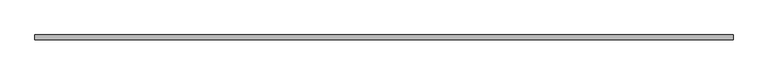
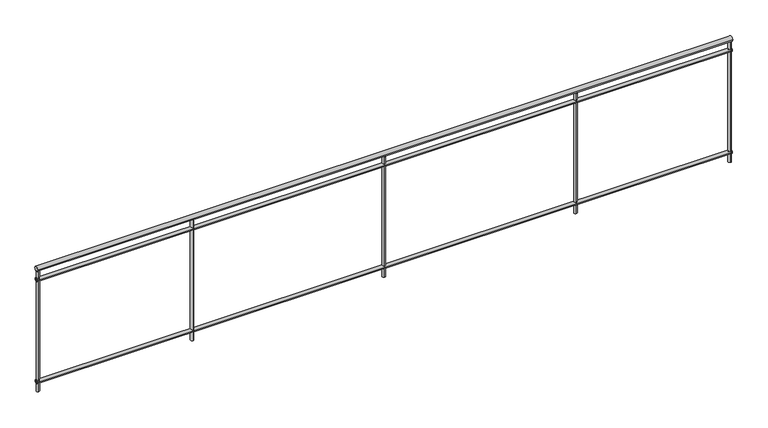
"""IFC4 building model written with IfcOpenShell, lengths in millimetres: railing geometry, バルコニー手摺."""

from ifc_helpers import new_model, si_unit, point, frame, frame_2d, origin, place, context, project, spatial, circle_curve, trimmed, segment, composite_curve, outline, extrude, source, transform, mapped, element, save


def railing_6a31d35b(model_context):
    return source(origin(), model_context, "Body", "SweptSolid", [
        extrude(outline(composite_curve([segment(trimmed(circle_curve(frame_2d((10035.2598658, 4980.0)), 20.0), [point((10055.2598658, 4980.0))], [point((10015.2598658, 4980.0))], False, "CARTESIAN"), True, "CONTINUOUS"), segment(trimmed(circle_curve(frame_2d((10035.2598658, 4980.0)), 20.0), [point((10015.2598658, 4980.0))], [point((10055.2598658, 4980.0))], False, "CARTESIAN"), True, "CONTINUOUS")], self_intersect=False)), frame((-9895.6194095, 0.0, 0.0), z_axis=(1.0, 0.0, 0.0), x_axis=(0.0, 1.0, 0.0)), (0.0, 0.0, 1.0), 5800.0),
        extrude(outline(composite_curve([segment(trimmed(circle_curve(frame_2d((10035.2598658, 4885.0)), 15.0), [point((10050.2598658, 4885.0))], [point((10020.2598658, 4885.0))], False, "CARTESIAN"), True, "CONTINUOUS"), segment(trimmed(circle_curve(frame_2d((10035.2598658, 4885.0)), 15.0), [point((10020.2598658, 4885.0))], [point((10050.2598658, 4885.0))], False, "CARTESIAN"), True, "CONTINUOUS")], self_intersect=False)), frame((-9895.6194095, 0.0, 0.0), z_axis=(1.0, 0.0, 0.0), x_axis=(0.0, 1.0, 0.0)), (0.0, 0.0, 1.0), 5800.0),
        extrude(outline(composite_curve([segment(trimmed(circle_curve(frame_2d((10035.2598658, 3985.0)), 15.0), [point((10050.2598658, 3985.0))], [point((10020.2598658, 3985.0))], False, "CARTESIAN"), True, "CONTINUOUS"), segment(trimmed(circle_curve(frame_2d((10035.2598658, 3985.0)), 15.0), [point((10020.2598658, 3985.0))], [point((10050.2598658, 3985.0))], False, "CARTESIAN"), True, "CONTINUOUS")], self_intersect=False)), frame((-9895.6194095, 0.0, 0.0), z_axis=(1.0, 0.0, 0.0), x_axis=(0.0, 1.0, 0.0)), (0.0, 0.0, 1.0), 5800.0),
        extrude(outline(composite_curve([segment(trimmed(circle_curve(frame_2d((-5395.6194095, 10035.2598658)), 12.5), [point((-5395.6194095, 10047.7598658))], [point((-5395.6194095, 10022.7598658))], False, "CARTESIAN"), True, "CONTINUOUS"), segment(trimmed(circle_curve(frame_2d((-5395.6194095, 10035.2598658)), 12.5), [point((-5395.6194095, 10022.7598658))], [point((-5395.6194095, 10047.7598658))], False, "CARTESIAN"), True, "CONTINUOUS")], self_intersect=False)), frame((0.0, 0.0, 3900.0), z_axis=(0.0, 0.0, 1.0), x_axis=(1.0, 0.0, 0.0)), (0.0, 0.0, 1.0), 1060.0),
        extrude(outline(composite_curve([segment(trimmed(circle_curve(frame_2d((-6995.6194095, 10035.2598658)), 12.5), [point((-6995.6194095, 10047.7598658))], [point((-6995.6194095, 10022.7598658))], False, "CARTESIAN"), True, "CONTINUOUS"), segment(trimmed(circle_curve(frame_2d((-6995.6194095, 10035.2598658)), 12.5), [point((-6995.6194095, 10022.7598658))], [point((-6995.6194095, 10047.7598658))], False, "CARTESIAN"), True, "CONTINUOUS")], self_intersect=False)), frame((0.0, 0.0, 3900.0), z_axis=(0.0, 0.0, 1.0), x_axis=(1.0, 0.0, 0.0)), (0.0, 0.0, 1.0), 1060.0),
        extrude(outline(composite_curve([segment(trimmed(circle_curve(frame_2d((-8595.6194095, 10035.2598658)), 12.5), [point((-8595.6194095, 10047.7598658))], [point((-8595.6194095, 10022.7598658))], False, "CARTESIAN"), True, "CONTINUOUS"), segment(trimmed(circle_curve(frame_2d((-8595.6194095, 10035.2598658)), 12.5), [point((-8595.6194095, 10022.7598658))], [point((-8595.6194095, 10047.7598658))], False, "CARTESIAN"), True, "CONTINUOUS")], self_intersect=False)), frame((0.0, 0.0, 3900.0), z_axis=(0.0, 0.0, 1.0), x_axis=(1.0, 0.0, 0.0)), (0.0, 0.0, 1.0), 1060.0),
        extrude(outline(composite_curve([segment(trimmed(circle_curve(frame_2d((-4107.8194095, 10035.2598658)), 12.5), [point((-4107.8194095, 10047.7598658))], [point((-4107.8194095, 10022.7598658))], False, "CARTESIAN"), True, "CONTINUOUS"), segment(trimmed(circle_curve(frame_2d((-4107.8194095, 10035.2598658)), 12.5), [point((-4107.8194095, 10022.7598658))], [point((-4107.8194095, 10047.7598658))], False, "CARTESIAN"), True, "CONTINUOUS")], self_intersect=False)), frame((0.0, 0.0, 3900.0), z_axis=(0.0, 0.0, 1.0), x_axis=(1.0, 0.0, 0.0)), (0.0, 0.0, 1.0), 1060.0),
        extrude(outline(composite_curve([segment(trimmed(circle_curve(frame_2d((-9883.4194095, 10035.2598658)), 12.5), [point((-9883.4194095, 10047.7598658))], [point((-9883.4194095, 10022.7598658))], False, "CARTESIAN"), True, "CONTINUOUS"), segment(trimmed(circle_curve(frame_2d((-9883.4194095, 10035.2598658)), 12.5), [point((-9883.4194095, 10022.7598658))], [point((-9883.4194095, 10047.7598658))], False, "CARTESIAN"), True, "CONTINUOUS")], self_intersect=False)), frame((0.0, 0.0, 3900.0), z_axis=(0.0, 0.0, 1.0), x_axis=(1.0, 0.0, 0.0)), (0.0, 0.0, 1.0), 1060.0),
    ])


if __name__ == "__main__":
    model = new_model("IFC4")
    model_context = context("Model", 3, world=origin())
    ifc_project = project(units=[si_unit("LENGTHUNIT", "METRE", prefix="MILLI")], contexts=[model_context])
    site = spatial("IfcSite", under=ifc_project)
    building = spatial("IfcBuilding", under=site)
    placement = place(None, origin())
    railing_shape = railing_6a31d35b(model_context)
    element("IfcRailing", 1, ObjectType="バルコニー手摺", at=placement, inside=building, context=model_context, shape_type="MappedRepresentation", body=[
        mapped(railing_shape, transform((0.0, 0.0, 0.0), x_axis=(1.0, 0.0, 0.0), y_axis=(0.0, 1.0, 0.0), z_axis=(0.0, 0.0, 1.0))),
    ])
    save(model, "model.ifc")
